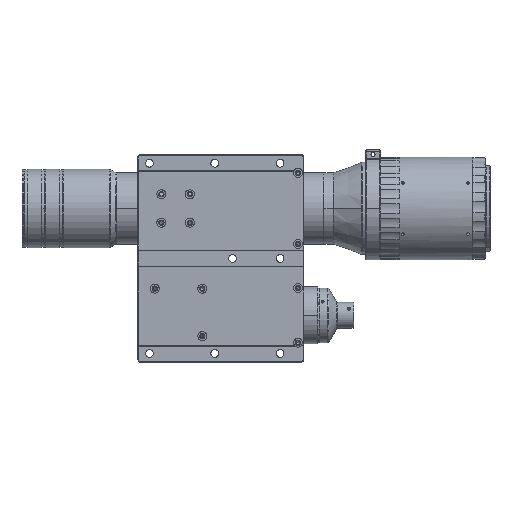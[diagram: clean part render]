
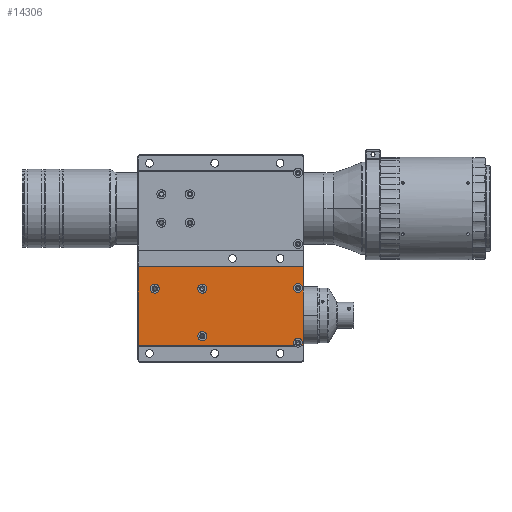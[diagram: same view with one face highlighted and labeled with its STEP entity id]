
A CAD part, front view. The second image highlights one B-rep face of the part: STEP entity #14306.
In plain terms, the highlighted planar face has unit normal (0, -1, 0).
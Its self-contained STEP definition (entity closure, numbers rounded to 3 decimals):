
#80 = VERTEX_POINT ( 'NONE', #30965 ) ;
#329 = FACE_BOUND ( 'NONE', #537, .T. ) ;
#428 = ORIENTED_EDGE ( 'NONE', *, *, #19056, .F. ) ;
#537 = EDGE_LOOP ( 'NONE', ( #9123, #42445 ) ) ;
#1934 = FACE_BOUND ( 'NONE', #42241, .T. ) ;
#2284 = DIRECTION ( 'NONE',  ( 0., 1., 0. ) ) ;
#3146 = CARTESIAN_POINT ( 'NONE',  ( 97.8, -41.5, -49. ) ) ;
#3149 = CARTESIAN_POINT ( 'NONE',  ( 236.05, -41.5, -67. ) ) ;
#3266 = DIRECTION ( 'NONE',  ( -1., 0., 0. ) ) ;
#3308 = AXIS2_PLACEMENT_3D ( 'NONE', #11852, #32787, #39194 ) ;
#3562 = DIRECTION ( 'NONE',  ( 0., 1., 0. ) ) ;
#3833 = CIRCLE ( 'NONE', #18968, 3.75 ) ;
#4536 = EDGE_CURVE ( 'NONE', #27783, #5532, #41571, .T. ) ;
#4843 = AXIS2_PLACEMENT_3D ( 'NONE', #37691, #33860, #41320 ) ;
#5532 = VERTEX_POINT ( 'NONE', #3149 ) ;
#5604 = LINE ( 'NONE', #21481, #38724 ) ;
#5630 = VERTEX_POINT ( 'NONE', #42124 ) ;
#6272 = VERTEX_POINT ( 'NONE', #24890 ) ;
#6386 = EDGE_CURVE ( 'NONE', #8920, #41735, #40309, .T. ) ;
#6406 = CARTESIAN_POINT ( 'NONE',  ( 236.8, -41.5, -49. ) ) ;
#6478 = DIRECTION ( 'NONE',  ( 0., -1., 0. ) ) ;
#7014 = CIRCLE ( 'NONE', #4843, 3.75 ) ;
#7099 = AXIS2_PLACEMENT_3D ( 'NONE', #31301, #31156, #3266 ) ;
#8082 = LINE ( 'NONE', #23845, #25975 ) ;
#8379 = VECTOR ( 'NONE', #42050, 1000. ) ;
#8809 = DIRECTION ( 'NONE',  ( -1., 0., 0. ) ) ;
#8920 = VERTEX_POINT ( 'NONE', #12814 ) ;
#8979 = CARTESIAN_POINT ( 'NONE',  ( 148.05, -41.5, -67.5 ) ) ;
#8995 = FACE_BOUND ( 'NONE', #32572, .T. ) ;
#9123 = ORIENTED_EDGE ( 'NONE', *, *, #4536, .T. ) ;
#9312 = CARTESIAN_POINT ( 'NONE',  ( 151.8, -41.5, -67.5 ) ) ;
#9635 = EDGE_CURVE ( 'NONE', #44010, #21602, #5604, .T. ) ;
#9723 = ORIENTED_EDGE ( 'NONE', *, *, #44205, .F. ) ;
#10338 = EDGE_CURVE ( 'NONE', #5532, #27783, #32632, .T. ) ;
#11678 = DIRECTION ( 'NONE',  ( -1., 0., 0. ) ) ;
#11852 = CARTESIAN_POINT ( 'NONE',  ( 232.3, -41.5, -113. ) ) ;
#12731 = LINE ( 'NONE', #17729, #8379 ) ;
#12800 = DIRECTION ( 'NONE',  ( -1., 0., 0. ) ) ;
#12814 = CARTESIAN_POINT ( 'NONE',  ( 155.55, -41.5, -107.5 ) ) ;
#13076 = AXIS2_PLACEMENT_3D ( 'NONE', #24332, #41656, #17511 ) ;
#13133 = ORIENTED_EDGE ( 'NONE', *, *, #26101, .T. ) ;
#13327 = FACE_OUTER_BOUND ( 'NONE', #33655, .T. ) ;
#13836 = CARTESIAN_POINT ( 'NONE',  ( 232.3, -41.5, -113. ) ) ;
#14306 = ADVANCED_FACE ( 'NONE', ( #8995, #1934, #17679, #329, #13327 ), #37345, .T. ) ;
#14504 = CARTESIAN_POINT ( 'NONE',  ( 148.05, -41.5, -107.5 ) ) ;
#14796 = DIRECTION ( 'NONE',  ( -1., 0., 0. ) ) ;
#15453 = ORIENTED_EDGE ( 'NONE', *, *, #43996, .F. ) ;
#15850 = VERTEX_POINT ( 'NONE', #39151 ) ;
#16149 = DIRECTION ( 'NONE',  ( -1., 0., 0. ) ) ;
#17132 = VERTEX_POINT ( 'NONE', #3146 ) ;
#17511 = DIRECTION ( 'NONE',  ( -1., 0., 0. ) ) ;
#17679 = FACE_BOUND ( 'NONE', #21021, .T. ) ;
#17729 = CARTESIAN_POINT ( 'NONE',  ( 236.8, -41.5, -82.25 ) ) ;
#17801 = VERTEX_POINT ( 'NONE', #8979 ) ;
#18258 = CARTESIAN_POINT ( 'NONE',  ( 236.8, -41.5, -115.5 ) ) ;
#18429 = CARTESIAN_POINT ( 'NONE',  ( 232.3, -41.5, -67. ) ) ;
#18742 = AXIS2_PLACEMENT_3D ( 'NONE', #18429, #39242, #14796 ) ;
#18968 = AXIS2_PLACEMENT_3D ( 'NONE', #13836, #3562, #41040 ) ;
#19056 = EDGE_CURVE ( 'NONE', #37394, #80, #7014, .T. ) ;
#19072 = AXIS2_PLACEMENT_3D ( 'NONE', #39757, #32759, #11678 ) ;
#20384 = AXIS2_PLACEMENT_3D ( 'NONE', #44538, #6478, #34193 ) ;
#20683 = ORIENTED_EDGE ( 'NONE', *, *, #37088, .T. ) ;
#20943 = DIRECTION ( 'NONE',  ( -1., 0., 0. ) ) ;
#21021 = EDGE_LOOP ( 'NONE', ( #34202, #28309 ) ) ;
#21481 = CARTESIAN_POINT ( 'NONE',  ( 167.3, -41.5, -115.5 ) ) ;
#21602 = VERTEX_POINT ( 'NONE', #32296 ) ;
#22773 = EDGE_CURVE ( 'NONE', #21602, #35280, #26262, .T. ) ;
#22921 = ORIENTED_EDGE ( 'NONE', *, *, #29788, .T. ) ;
#22959 = AXIS2_PLACEMENT_3D ( 'NONE', #6406, #30649, #20943 ) ;
#23845 = CARTESIAN_POINT ( 'NONE',  ( 97.8, -41.5, -82.25 ) ) ;
#24332 = CARTESIAN_POINT ( 'NONE',  ( 151.8, -41.5, -107.5 ) ) ;
#24354 = LINE ( 'NONE', #37252, #32484 ) ;
#24890 = CARTESIAN_POINT ( 'NONE',  ( 235.095, -41.5, -115.5 ) ) ;
#25049 = ORIENTED_EDGE ( 'NONE', *, *, #25763, .T. ) ;
#25763 = EDGE_CURVE ( 'NONE', #5630, #17132, #24354, .T. ) ;
#25912 = EDGE_CURVE ( 'NONE', #17801, #37804, #36832, .T. ) ;
#25975 = VECTOR ( 'NONE', #32019, 1000. ) ;
#26101 = EDGE_CURVE ( 'NONE', #15850, #6272, #35206, .T. ) ;
#26262 = CIRCLE ( 'NONE', #29932, 3.75 ) ;
#26377 = DIRECTION ( 'NONE',  ( -1., 0., 0. ) ) ;
#27783 = VERTEX_POINT ( 'NONE', #40249 ) ;
#28309 = ORIENTED_EDGE ( 'NONE', *, *, #6386, .F. ) ;
#28388 = CIRCLE ( 'NONE', #20384, 3.75 ) ;
#28446 = DIRECTION ( 'NONE',  ( 1., 0., 0. ) ) ;
#29576 = VECTOR ( 'NONE', #37163, 1000. ) ;
#29788 = EDGE_CURVE ( 'NONE', #39634, #5630, #12731, .T. ) ;
#29932 = AXIS2_PLACEMENT_3D ( 'NONE', #40514, #2284, #26377 ) ;
#30331 = AXIS2_PLACEMENT_3D ( 'NONE', #9312, #40718, #12800 ) ;
#30649 = DIRECTION ( 'NONE',  ( 0., -1., 0. ) ) ;
#30965 = CARTESIAN_POINT ( 'NONE',  ( 108.05, -41.5, -67.5 ) ) ;
#31156 = DIRECTION ( 'NONE',  ( 0., -1., 0. ) ) ;
#31301 = CARTESIAN_POINT ( 'NONE',  ( 151.8, -41.5, -67.5 ) ) ;
#32019 = DIRECTION ( 'NONE',  ( 0., 0., 1. ) ) ;
#32093 = CARTESIAN_POINT ( 'NONE',  ( 115.55, -41.5, -67.5 ) ) ;
#32201 = CIRCLE ( 'NONE', #13076, 3.75 ) ;
#32296 = CARTESIAN_POINT ( 'NONE',  ( 229.505, -41.5, -115.5 ) ) ;
#32484 = VECTOR ( 'NONE', #16149, 1000. ) ;
#32572 = EDGE_LOOP ( 'NONE', ( #41730, #15453 ) ) ;
#32632 = CIRCLE ( 'NONE', #34745, 3.75 ) ;
#32759 = DIRECTION ( 'NONE',  ( 0., -1., 0. ) ) ;
#32787 = DIRECTION ( 'NONE',  ( 0., 1., 0. ) ) ;
#33655 = EDGE_LOOP ( 'NONE', ( #20683, #22921, #25049, #9723, #35109, #39659, #38017, #13133 ) ) ;
#33860 = DIRECTION ( 'NONE',  ( 0., -1., 0. ) ) ;
#34193 = DIRECTION ( 'NONE',  ( -1., 0., 0. ) ) ;
#34202 = ORIENTED_EDGE ( 'NONE', *, *, #39536, .F. ) ;
#34745 = AXIS2_PLACEMENT_3D ( 'NONE', #40513, #36572, #8809 ) ;
#35109 = ORIENTED_EDGE ( 'NONE', *, *, #9635, .T. ) ;
#35206 = CIRCLE ( 'NONE', #3308, 3.75 ) ;
#35280 = VERTEX_POINT ( 'NONE', #41047 ) ;
#35747 = CIRCLE ( 'NONE', #30331, 3.75 ) ;
#36572 = DIRECTION ( 'NONE',  ( 0., 1., 0. ) ) ;
#36832 = CIRCLE ( 'NONE', #7099, 3.75 ) ;
#37088 = EDGE_CURVE ( 'NONE', #6272, #39634, #44279, .T. ) ;
#37163 = DIRECTION ( 'NONE',  ( 1., 0., 0. ) ) ;
#37252 = CARTESIAN_POINT ( 'NONE',  ( 167.3, -41.5, -49. ) ) ;
#37345 = PLANE ( 'NONE',  #22959 ) ;
#37394 = VERTEX_POINT ( 'NONE', #32093 ) ;
#37691 = CARTESIAN_POINT ( 'NONE',  ( 111.8, -41.5, -67.5 ) ) ;
#37804 = VERTEX_POINT ( 'NONE', #42105 ) ;
#38017 = ORIENTED_EDGE ( 'NONE', *, *, #43466, .T. ) ;
#38724 = VECTOR ( 'NONE', #28446, 1000. ) ;
#39151 = CARTESIAN_POINT ( 'NONE',  ( 236.05, -41.5, -113. ) ) ;
#39194 = DIRECTION ( 'NONE',  ( -1., 0., 0. ) ) ;
#39242 = DIRECTION ( 'NONE',  ( 0., 1., 0. ) ) ;
#39536 = EDGE_CURVE ( 'NONE', #41735, #8920, #32201, .T. ) ;
#39634 = VERTEX_POINT ( 'NONE', #18258 ) ;
#39659 = ORIENTED_EDGE ( 'NONE', *, *, #22773, .T. ) ;
#39757 = CARTESIAN_POINT ( 'NONE',  ( 151.8, -41.5, -107.5 ) ) ;
#40249 = CARTESIAN_POINT ( 'NONE',  ( 228.55, -41.5, -67. ) ) ;
#40309 = CIRCLE ( 'NONE', #19072, 3.75 ) ;
#40375 = ORIENTED_EDGE ( 'NONE', *, *, #41150, .F. ) ;
#40513 = CARTESIAN_POINT ( 'NONE',  ( 232.3, -41.5, -67. ) ) ;
#40514 = CARTESIAN_POINT ( 'NONE',  ( 232.3, -41.5, -113. ) ) ;
#40718 = DIRECTION ( 'NONE',  ( 0., -1., 0. ) ) ;
#41033 = CARTESIAN_POINT ( 'NONE',  ( 97.8, -41.5, -115.5 ) ) ;
#41040 = DIRECTION ( 'NONE',  ( -1., 0., 0. ) ) ;
#41047 = CARTESIAN_POINT ( 'NONE',  ( 228.55, -41.5, -113. ) ) ;
#41150 = EDGE_CURVE ( 'NONE', #80, #37394, #28388, .T. ) ;
#41320 = DIRECTION ( 'NONE',  ( -1., 0., 0. ) ) ;
#41571 = CIRCLE ( 'NONE', #18742, 3.75 ) ;
#41656 = DIRECTION ( 'NONE',  ( 0., -1., 0. ) ) ;
#41730 = ORIENTED_EDGE ( 'NONE', *, *, #25912, .F. ) ;
#41735 = VERTEX_POINT ( 'NONE', #14504 ) ;
#42050 = DIRECTION ( 'NONE',  ( 0., 0., 1. ) ) ;
#42105 = CARTESIAN_POINT ( 'NONE',  ( 155.55, -41.5, -67.5 ) ) ;
#42124 = CARTESIAN_POINT ( 'NONE',  ( 236.8, -41.5, -49. ) ) ;
#42241 = EDGE_LOOP ( 'NONE', ( #40375, #428 ) ) ;
#42445 = ORIENTED_EDGE ( 'NONE', *, *, #10338, .T. ) ;
#43392 = CARTESIAN_POINT ( 'NONE',  ( 167.3, -41.5, -115.5 ) ) ;
#43466 = EDGE_CURVE ( 'NONE', #35280, #15850, #3833, .T. ) ;
#43996 = EDGE_CURVE ( 'NONE', #37804, #17801, #35747, .T. ) ;
#44010 = VERTEX_POINT ( 'NONE', #41033 ) ;
#44205 = EDGE_CURVE ( 'NONE', #44010, #17132, #8082, .T. ) ;
#44279 = LINE ( 'NONE', #43392, #29576 ) ;
#44538 = CARTESIAN_POINT ( 'NONE',  ( 111.8, -41.5, -67.5 ) ) ;
